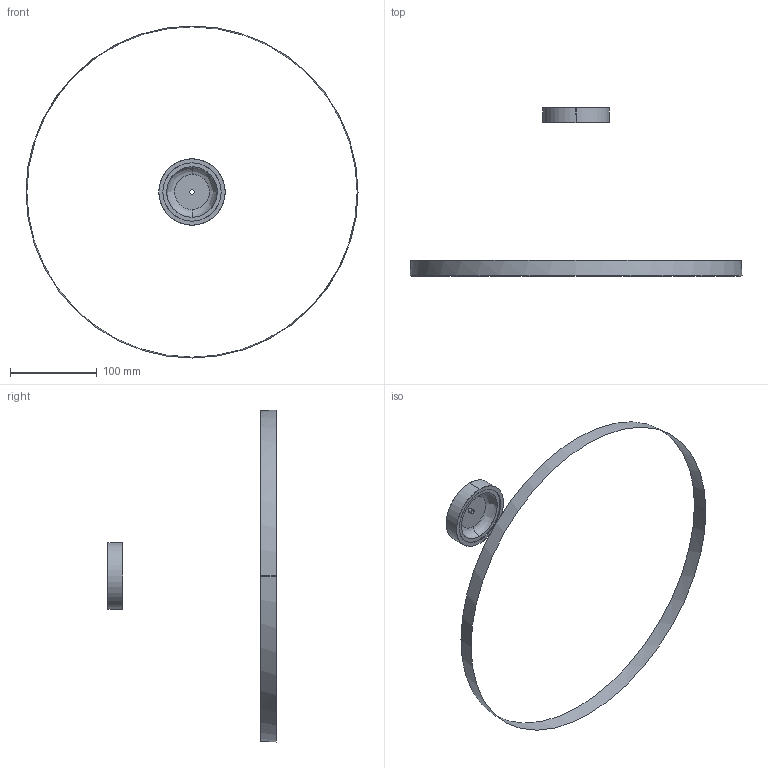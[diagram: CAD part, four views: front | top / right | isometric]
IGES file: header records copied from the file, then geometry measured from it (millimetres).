
Start section: SolidWorks IGES file using analytic representation for surfaces
Global section: file name: C:\Users\toshiba\Documents\Independiente\Plastico Guatavita\Diseños en plástico\Percheros\Perchero hongo\Molde SW\IGEs y STP\Top.IGS; native system: SolidWorks 2018; preprocessor: SolidWorks 2018; author: toshiba; date: 200310.125051; units: millimetre
Bounding box: 381.97 x 193.5 x 381.97 mm (x, y, z)
Surface area: 34253.7 mm2 (no closed solid volume)
Topology: 0 solids, 0 shells, 13 faces, 400 edges, 400 vertices
Faces by surface type: revolution 8, bspline 5
